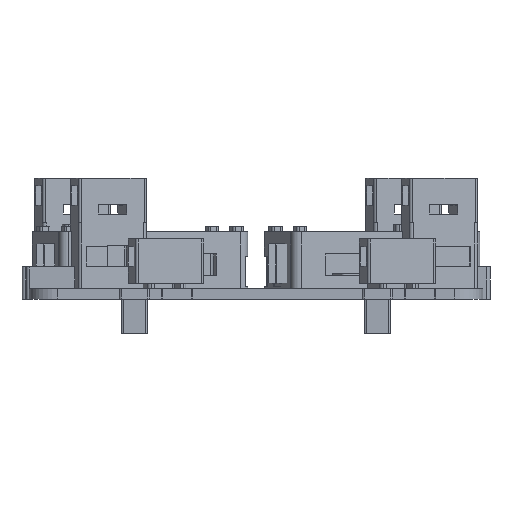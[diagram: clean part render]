
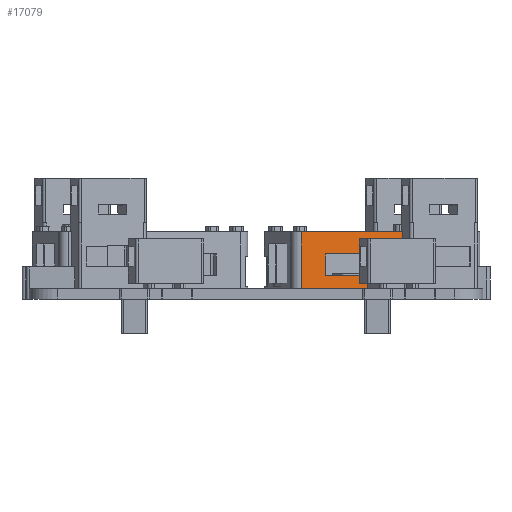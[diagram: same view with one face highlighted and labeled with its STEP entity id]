
A CAD part, front view. The second image highlights one B-rep face of the part: STEP entity #17079.
In plain terms, the highlighted planar face has unit normal (0.208, -0.978, 0).
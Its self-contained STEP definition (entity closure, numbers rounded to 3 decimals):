
#1592 = PLANE('',#1593);
#1593 = AXIS2_PLACEMENT_3D('',#1594,#1595,#1596);
#1594 = CARTESIAN_POINT('',(28.688,-33.195,20.8));
#1595 = DIRECTION('',(0.978,0.208,0.));
#1596 = DIRECTION('',(0.,0.,1.));
#6861 = PLANE('',#6862);
#6862 = AXIS2_PLACEMENT_3D('',#6863,#6864,#6865);
#6863 = CARTESIAN_POINT('',(8.436,-23.29,20.8));
#6864 = DIRECTION('',(0.,0.,1.));
#6865 = DIRECTION('',(0.978,0.208,0.));
#8026 = VERTEX_POINT('',#8027);
#8027 = CARTESIAN_POINT('',(25.798,-19.599,20.8));
#8048 = EDGE_CURVE('',#8049,#8026,#8051,.T.);
#8049 = VERTEX_POINT('',#8050);
#8050 = CARTESIAN_POINT('',(25.798,-19.599,23.8));
#8051 = SURFACE_CURVE('',#8052,(#8056,#8063),.PCURVE_S1.);
#8052 = LINE('',#8053,#8054);
#8053 = CARTESIAN_POINT('',(25.798,-19.599,20.8));
#8054 = VECTOR('',#8055,1.);
#8055 = DIRECTION('',(0.,0.,-1.));
#8056 = PCURVE('',#1592,#8057);
#8057 = DEFINITIONAL_REPRESENTATION('',(#8058),#8062);
#8058 = LINE('',#8059,#8060);
#8059 = CARTESIAN_POINT('',(0.,-13.9));
#8060 = VECTOR('',#8061,1.);
#8061 = DIRECTION('',(-1.,0.));
#8062 = ( GEOMETRIC_REPRESENTATION_CONTEXT(2) 
PARAMETRIC_REPRESENTATION_CONTEXT() REPRESENTATION_CONTEXT('2D SPACE',''
  ) );
#8063 = PCURVE('',#8064,#8069);
#8064 = PLANE('',#8065);
#8065 = AXIS2_PLACEMENT_3D('',#8066,#8067,#8068);
#8066 = CARTESIAN_POINT('',(8.436,-23.29,20.8));
#8067 = DIRECTION('',(-0.208,0.978,0.));
#8068 = DIRECTION('',(0.,0.,1.));
#8069 = DEFINITIONAL_REPRESENTATION('',(#8070),#8074);
#8070 = LINE('',#8071,#8072);
#8071 = CARTESIAN_POINT('',(0.,17.75));
#8072 = VECTOR('',#8073,1.);
#8073 = DIRECTION('',(-1.,0.));
#8074 = ( GEOMETRIC_REPRESENTATION_CONTEXT(2) 
PARAMETRIC_REPRESENTATION_CONTEXT() REPRESENTATION_CONTEXT('2D SPACE',''
  ) );
#8092 = PLANE('',#8093);
#8093 = AXIS2_PLACEMENT_3D('',#8094,#8095,#8096);
#8094 = CARTESIAN_POINT('',(16.931,-25.982,23.8));
#8095 = DIRECTION('',(0.,0.,1.));
#8096 = DIRECTION('',(0.978,0.208,0.));
#10150 = VERTEX_POINT('',#10151);
#10151 = CARTESIAN_POINT('',(10.392,-22.874,20.8));
#10170 = CYLINDRICAL_SURFACE('',#10171,2.);
#10171 = AXIS2_PLACEMENT_3D('',#10172,#10173,#10174);
#10172 = CARTESIAN_POINT('',(9.976,-20.917,20.8));
#10173 = DIRECTION('',(0.,0.,1.));
#10174 = DIRECTION('',(-0.978,-0.208,0.));
#10182 = EDGE_CURVE('',#10150,#8026,#10183,.T.);
#10183 = SURFACE_CURVE('',#10184,(#10188,#10195),.PCURVE_S1.);
#10184 = LINE('',#10185,#10186);
#10185 = CARTESIAN_POINT('',(8.436,-23.29,20.8));
#10186 = VECTOR('',#10187,1.);
#10187 = DIRECTION('',(0.978,0.208,0.));
#10188 = PCURVE('',#6861,#10189);
#10189 = DEFINITIONAL_REPRESENTATION('',(#10190),#10194);
#10190 = LINE('',#10191,#10192);
#10191 = CARTESIAN_POINT('',(0.,0.));
#10192 = VECTOR('',#10193,1.);
#10193 = DIRECTION('',(1.,0.));
#10194 = ( GEOMETRIC_REPRESENTATION_CONTEXT(2) 
PARAMETRIC_REPRESENTATION_CONTEXT() REPRESENTATION_CONTEXT('2D SPACE',''
  ) );
#10195 = PCURVE('',#8064,#10196);
#10196 = DEFINITIONAL_REPRESENTATION('',(#10197),#10201);
#10197 = LINE('',#10198,#10199);
#10198 = CARTESIAN_POINT('',(0.,0.));
#10199 = VECTOR('',#10200,1.);
#10200 = DIRECTION('',(0.,1.));
#10201 = ( GEOMETRIC_REPRESENTATION_CONTEXT(2) 
PARAMETRIC_REPRESENTATION_CONTEXT() REPRESENTATION_CONTEXT('2D SPACE',''
  ) );
#16228 = PLANE('',#16229);
#16229 = AXIS2_PLACEMENT_3D('',#16230,#16231,#16232);
#16230 = CARTESIAN_POINT('',(35.494,-25.921,20.8));
#16231 = DIRECTION('',(0.978,0.208,0.));
#16232 = DIRECTION('',(0.,0.,1.));
#16698 = PLANE('',#16699);
#16699 = AXIS2_PLACEMENT_3D('',#16700,#16701,#16702);
#16700 = CARTESIAN_POINT('',(8.436,-23.29,33.9));
#16701 = DIRECTION('',(0.,0.,1.));
#16702 = DIRECTION('',(0.978,0.208,0.));
#16970 = PLANE('',#16971);
#16971 = AXIS2_PLACEMENT_3D('',#16972,#16973,#16974);
#16972 = CARTESIAN_POINT('',(16.931,-25.982,28.8));
#16973 = DIRECTION('',(0.,0.,1.));
#16974 = DIRECTION('',(0.978,0.208,0.));
#16998 = PLANE('',#16999);
#16999 = AXIS2_PLACEMENT_3D('',#17000,#17001,#17002);
#17000 = CARTESIAN_POINT('',(16.931,-25.982,23.8));
#17001 = DIRECTION('',(0.978,0.208,0.));
#17002 = DIRECTION('',(0.,0.,1.));
#17035 = VERTEX_POINT('',#17036);
#17036 = CARTESIAN_POINT('',(16.016,-21.678,23.8));
#17057 = EDGE_CURVE('',#17035,#8049,#17058,.T.);
#17058 = SURFACE_CURVE('',#17059,(#17063,#17070),.PCURVE_S1.);
#17059 = LINE('',#17060,#17061);
#17060 = CARTESIAN_POINT('',(12.226,-22.484,23.8));
#17061 = VECTOR('',#17062,1.);
#17062 = DIRECTION('',(0.978,0.208,0.));
#17063 = PCURVE('',#8092,#17064);
#17064 = DEFINITIONAL_REPRESENTATION('',(#17065),#17069);
#17065 = LINE('',#17066,#17067);
#17066 = CARTESIAN_POINT('',(-3.875,4.4));
#17067 = VECTOR('',#17068,1.);
#17068 = DIRECTION('',(1.,0.));
#17069 = ( GEOMETRIC_REPRESENTATION_CONTEXT(2) 
PARAMETRIC_REPRESENTATION_CONTEXT() REPRESENTATION_CONTEXT('2D SPACE',''
  ) );
#17070 = PCURVE('',#8064,#17071);
#17071 = DEFINITIONAL_REPRESENTATION('',(#17072),#17076);
#17072 = LINE('',#17073,#17074);
#17073 = CARTESIAN_POINT('',(3.,3.875));
#17074 = VECTOR('',#17075,1.);
#17075 = DIRECTION('',(0.,1.));
#17076 = ( GEOMETRIC_REPRESENTATION_CONTEXT(2) 
PARAMETRIC_REPRESENTATION_CONTEXT() REPRESENTATION_CONTEXT('2D SPACE',''
  ) );
#17079 = ADVANCED_FACE('',(#17080),#8064,.F.);
#17080 = FACE_BOUND('',#17081,.F.);
#17081 = EDGE_LOOP('',(#17082,#17083,#17106,#17129,#17152,#17175,#17196,
    #17197));
#17082 = ORIENTED_EDGE('',*,*,#10182,.F.);
#17083 = ORIENTED_EDGE('',*,*,#17084,.T.);
#17084 = EDGE_CURVE('',#10150,#17085,#17087,.T.);
#17085 = VERTEX_POINT('',#17086);
#17086 = CARTESIAN_POINT('',(10.392,-22.874,33.9));
#17087 = SURFACE_CURVE('',#17088,(#17092,#17099),.PCURVE_S1.);
#17088 = LINE('',#17089,#17090);
#17089 = CARTESIAN_POINT('',(10.392,-22.874,20.8));
#17090 = VECTOR('',#17091,1.);
#17091 = DIRECTION('',(0.,0.,1.));
#17092 = PCURVE('',#8064,#17093);
#17093 = DEFINITIONAL_REPRESENTATION('',(#17094),#17098);
#17094 = LINE('',#17095,#17096);
#17095 = CARTESIAN_POINT('',(0.,2.));
#17096 = VECTOR('',#17097,1.);
#17097 = DIRECTION('',(1.,0.));
#17098 = ( GEOMETRIC_REPRESENTATION_CONTEXT(2) 
PARAMETRIC_REPRESENTATION_CONTEXT() REPRESENTATION_CONTEXT('2D SPACE',''
  ) );
#17099 = PCURVE('',#10170,#17100);
#17100 = DEFINITIONAL_REPRESENTATION('',(#17101),#17105);
#17101 = LINE('',#17102,#17103);
#17102 = CARTESIAN_POINT('',(1.571,0.));
#17103 = VECTOR('',#17104,1.);
#17104 = DIRECTION('',(0.,1.));
#17105 = ( GEOMETRIC_REPRESENTATION_CONTEXT(2) 
PARAMETRIC_REPRESENTATION_CONTEXT() REPRESENTATION_CONTEXT('2D SPACE',''
  ) );
#17106 = ORIENTED_EDGE('',*,*,#17107,.T.);
#17107 = EDGE_CURVE('',#17085,#17108,#17110,.T.);
#17108 = VERTEX_POINT('',#17109);
#17109 = CARTESIAN_POINT('',(33.789,-17.901,33.9));
#17110 = SURFACE_CURVE('',#17111,(#17115,#17122),.PCURVE_S1.);
#17111 = LINE('',#17112,#17113);
#17112 = CARTESIAN_POINT('',(8.436,-23.29,33.9));
#17113 = VECTOR('',#17114,1.);
#17114 = DIRECTION('',(0.978,0.208,0.));
#17115 = PCURVE('',#8064,#17116);
#17116 = DEFINITIONAL_REPRESENTATION('',(#17117),#17121);
#17117 = LINE('',#17118,#17119);
#17118 = CARTESIAN_POINT('',(13.1,0.));
#17119 = VECTOR('',#17120,1.);
#17120 = DIRECTION('',(0.,1.));
#17121 = ( GEOMETRIC_REPRESENTATION_CONTEXT(2) 
PARAMETRIC_REPRESENTATION_CONTEXT() REPRESENTATION_CONTEXT('2D SPACE',''
  ) );
#17122 = PCURVE('',#16698,#17123);
#17123 = DEFINITIONAL_REPRESENTATION('',(#17124),#17128);
#17124 = LINE('',#17125,#17126);
#17125 = CARTESIAN_POINT('',(0.,0.));
#17126 = VECTOR('',#17127,1.);
#17127 = DIRECTION('',(1.,0.));
#17128 = ( GEOMETRIC_REPRESENTATION_CONTEXT(2) 
PARAMETRIC_REPRESENTATION_CONTEXT() REPRESENTATION_CONTEXT('2D SPACE',''
  ) );
#17129 = ORIENTED_EDGE('',*,*,#17130,.T.);
#17130 = EDGE_CURVE('',#17108,#17131,#17133,.T.);
#17131 = VERTEX_POINT('',#17132);
#17132 = CARTESIAN_POINT('',(33.789,-17.901,28.8));
#17133 = SURFACE_CURVE('',#17134,(#17138,#17145),.PCURVE_S1.);
#17134 = LINE('',#17135,#17136);
#17135 = CARTESIAN_POINT('',(33.789,-17.901,20.8));
#17136 = VECTOR('',#17137,1.);
#17137 = DIRECTION('',(0.,0.,-1.));
#17138 = PCURVE('',#8064,#17139);
#17139 = DEFINITIONAL_REPRESENTATION('',(#17140),#17144);
#17140 = LINE('',#17141,#17142);
#17141 = CARTESIAN_POINT('',(0.,25.92));
#17142 = VECTOR('',#17143,1.);
#17143 = DIRECTION('',(-1.,0.));
#17144 = ( GEOMETRIC_REPRESENTATION_CONTEXT(2) 
PARAMETRIC_REPRESENTATION_CONTEXT() REPRESENTATION_CONTEXT('2D SPACE',''
  ) );
#17145 = PCURVE('',#16228,#17146);
#17146 = DEFINITIONAL_REPRESENTATION('',(#17147),#17151);
#17147 = LINE('',#17148,#17149);
#17148 = CARTESIAN_POINT('',(0.,-8.2));
#17149 = VECTOR('',#17150,1.);
#17150 = DIRECTION('',(-1.,0.));
#17151 = ( GEOMETRIC_REPRESENTATION_CONTEXT(2) 
PARAMETRIC_REPRESENTATION_CONTEXT() REPRESENTATION_CONTEXT('2D SPACE',''
  ) );
#17152 = ORIENTED_EDGE('',*,*,#17153,.F.);
#17153 = EDGE_CURVE('',#17154,#17131,#17156,.T.);
#17154 = VERTEX_POINT('',#17155);
#17155 = CARTESIAN_POINT('',(16.016,-21.678,28.8));
#17156 = SURFACE_CURVE('',#17157,(#17161,#17168),.PCURVE_S1.);
#17157 = LINE('',#17158,#17159);
#17158 = CARTESIAN_POINT('',(12.226,-22.484,28.8));
#17159 = VECTOR('',#17160,1.);
#17160 = DIRECTION('',(0.978,0.208,0.));
#17161 = PCURVE('',#8064,#17162);
#17162 = DEFINITIONAL_REPRESENTATION('',(#17163),#17167);
#17163 = LINE('',#17164,#17165);
#17164 = CARTESIAN_POINT('',(8.,3.875));
#17165 = VECTOR('',#17166,1.);
#17166 = DIRECTION('',(0.,1.));
#17167 = ( GEOMETRIC_REPRESENTATION_CONTEXT(2) 
PARAMETRIC_REPRESENTATION_CONTEXT() REPRESENTATION_CONTEXT('2D SPACE',''
  ) );
#17168 = PCURVE('',#16970,#17169);
#17169 = DEFINITIONAL_REPRESENTATION('',(#17170),#17174);
#17170 = LINE('',#17171,#17172);
#17171 = CARTESIAN_POINT('',(-3.875,4.4));
#17172 = VECTOR('',#17173,1.);
#17173 = DIRECTION('',(1.,0.));
#17174 = ( GEOMETRIC_REPRESENTATION_CONTEXT(2) 
PARAMETRIC_REPRESENTATION_CONTEXT() REPRESENTATION_CONTEXT('2D SPACE',''
  ) );
#17175 = ORIENTED_EDGE('',*,*,#17176,.T.);
#17176 = EDGE_CURVE('',#17154,#17035,#17177,.T.);
#17177 = SURFACE_CURVE('',#17178,(#17182,#17189),.PCURVE_S1.);
#17178 = LINE('',#17179,#17180);
#17179 = CARTESIAN_POINT('',(16.016,-21.678,22.3));
#17180 = VECTOR('',#17181,1.);
#17181 = DIRECTION('',(0.,0.,-1.));
#17182 = PCURVE('',#8064,#17183);
#17183 = DEFINITIONAL_REPRESENTATION('',(#17184),#17188);
#17184 = LINE('',#17185,#17186);
#17185 = CARTESIAN_POINT('',(1.5,7.75));
#17186 = VECTOR('',#17187,1.);
#17187 = DIRECTION('',(-1.,0.));
#17188 = ( GEOMETRIC_REPRESENTATION_CONTEXT(2) 
PARAMETRIC_REPRESENTATION_CONTEXT() REPRESENTATION_CONTEXT('2D SPACE',''
  ) );
#17189 = PCURVE('',#16998,#17190);
#17190 = DEFINITIONAL_REPRESENTATION('',(#17191),#17195);
#17191 = LINE('',#17192,#17193);
#17192 = CARTESIAN_POINT('',(-1.5,-4.4));
#17193 = VECTOR('',#17194,1.);
#17194 = DIRECTION('',(-1.,0.));
#17195 = ( GEOMETRIC_REPRESENTATION_CONTEXT(2) 
PARAMETRIC_REPRESENTATION_CONTEXT() REPRESENTATION_CONTEXT('2D SPACE',''
  ) );
#17196 = ORIENTED_EDGE('',*,*,#17057,.T.);
#17197 = ORIENTED_EDGE('',*,*,#8048,.T.);
